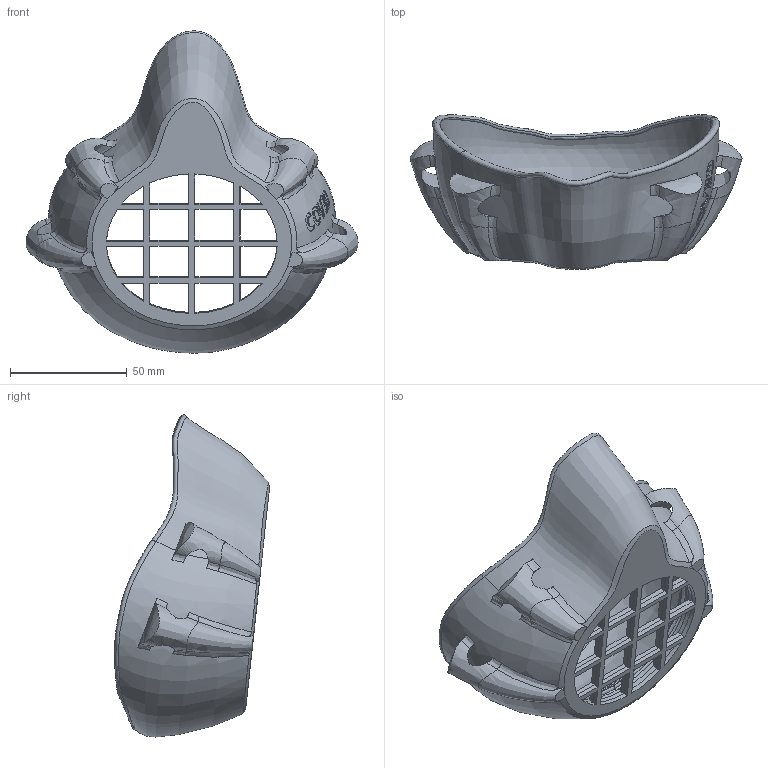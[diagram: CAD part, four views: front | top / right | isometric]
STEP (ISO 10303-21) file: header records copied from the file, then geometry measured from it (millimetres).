
FILE_DESCRIPTION(/* description */ (''),/* implementation_level */ '2;1');
FILE_NAME(/* name */ 'L-WIDE~2',/* time_stamp */ '2020-04-10T21:45:35+03:00',/* author */ (''),/* organization */ (''),/* preprocessor_version */ 'ST-DEVELOPER v16.5',/* originating_system */ '',/* authorisation */ '');
FILE_SCHEMA (('AUTOMOTIVE_DESIGN'));
Length unit declared in the file: millimetre
Products named in the file (1): Document
Bounding box: 142.02 x 66.43 x 137.81 mm (x, y, z)
Volume: 68685.5 mm3; surface area: 54160.2 mm2
Topology: 1 solids, 1 shells, 312 faces, 797 edges, 489 vertices
Faces by surface type: bspline 209, plane 103
Entity records: 184217 total; most frequent: CARTESIAN_POINT 179229, ORIENTED_EDGE 1594, EDGE_CURVE 797, B_SPLINE_CURVE_WITH_KNOTS 625, VERTEX_POINT 489, EDGE_LOOP 354, ADVANCED_FACE 312, FACE_OUTER_BOUND 312
